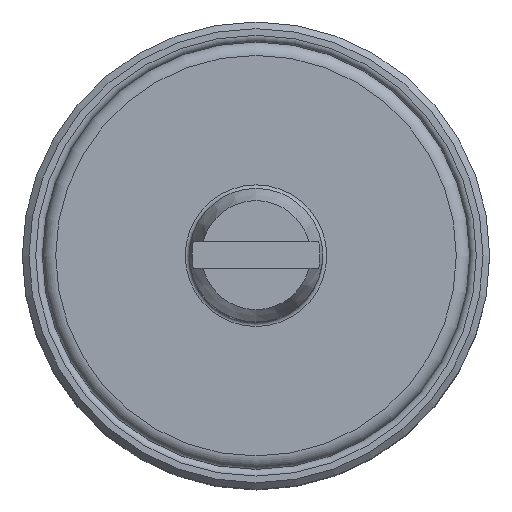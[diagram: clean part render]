
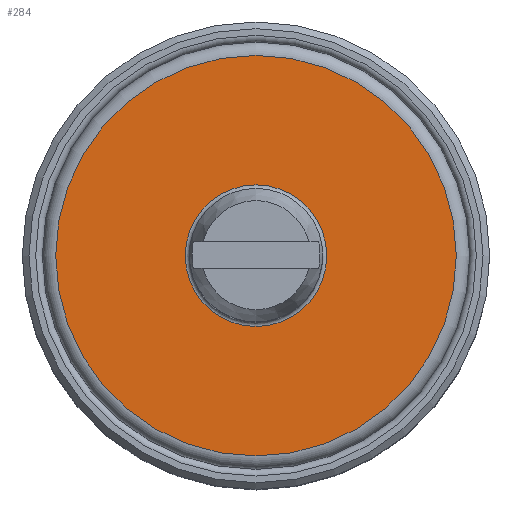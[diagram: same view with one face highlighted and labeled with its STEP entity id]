
A CAD part, top view. The second image highlights one B-rep face of the part: STEP entity #284.
In plain terms, the highlighted planar face has unit normal (0, 0, 1).
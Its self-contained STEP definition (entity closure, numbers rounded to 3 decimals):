
#25=FACE_BOUND('',#98,.T.);
#59=PLANE('',#316);
#72=FACE_OUTER_BOUND('',#97,.T.);
#97=EDGE_LOOP('',(#225));
#98=EDGE_LOOP('',(#226));
#130=CIRCLE('',#313,5.3);
#131=CIRCLE('',#317,14.998);
#154=VERTEX_POINT('',#473);
#155=VERTEX_POINT('',#478);
#182=EDGE_CURVE('',#154,#154,#130,.T.);
#183=EDGE_CURVE('',#155,#155,#131,.T.);
#225=ORIENTED_EDGE('',*,*,#183,.T.);
#226=ORIENTED_EDGE('',*,*,#182,.F.);
#284=ADVANCED_FACE('',(#72,#25),#59,.T.);
#313=AXIS2_PLACEMENT_3D('',#474,#375,#376);
#316=AXIS2_PLACEMENT_3D('',#477,#381,#382);
#317=AXIS2_PLACEMENT_3D('',#479,#383,#384);
#375=DIRECTION('center_axis',(0.,0.,1.));
#376=DIRECTION('ref_axis',(1.,0.,0.));
#381=DIRECTION('center_axis',(0.,0.,1.));
#382=DIRECTION('ref_axis',(1.,0.,0.));
#383=DIRECTION('center_axis',(0.,0.,1.));
#384=DIRECTION('ref_axis',(0.,-1.,0.));
#473=CARTESIAN_POINT('',(0.,-5.3,0.));
#474=CARTESIAN_POINT('Origin',(0.,0.,0.));
#477=CARTESIAN_POINT('Origin',(0.,-2.65,0.));
#478=CARTESIAN_POINT('',(0.,-14.998,0.));
#479=CARTESIAN_POINT('Origin',(0.,0.,0.));
